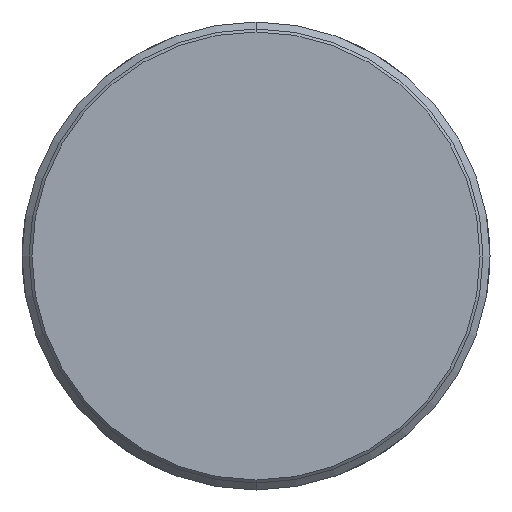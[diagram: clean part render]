
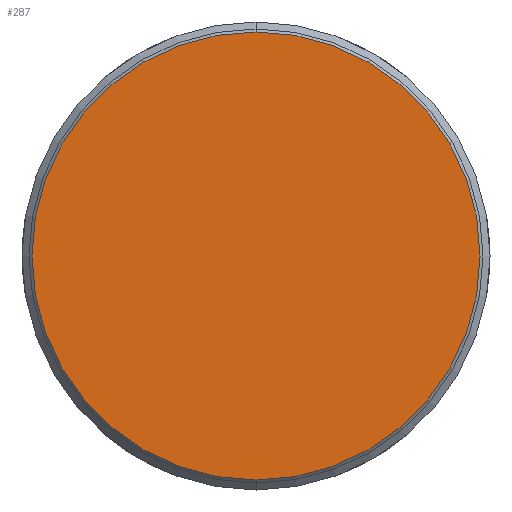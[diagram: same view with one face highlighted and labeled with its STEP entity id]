
A CAD part, front view. The second image highlights one B-rep face of the part: STEP entity #287.
In plain terms, the highlighted planar face has unit normal (0, -1, 0).
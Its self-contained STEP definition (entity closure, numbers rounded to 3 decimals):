
#262=CARTESIAN_POINT('',(0.0,-69.0,-38.3));
#263=VERTEX_POINT('',#262);
#264=CARTESIAN_POINT('',(0.0,-69.0,38.3));
#265=VERTEX_POINT('',#264);
#266=CARTESIAN_POINT('',(0.0,-69.0,0.0));
#267=DIRECTION('',(0.0,-1.0,0.0));
#268=DIRECTION('',(0.0,0.0,-1.0));
#269=AXIS2_PLACEMENT_3D('',#266,#267,#268);
#270=CIRCLE('',#269,38.3);
#271=EDGE_CURVE('no 2156',#263,#265,#270,.T.);
#272=ORIENTED_EDGE('',*,*,#271,.T.);
#273=CARTESIAN_POINT('',(0.0,-69.0,0.0));
#274=DIRECTION('',(0.0,-1.0,0.0));
#275=DIRECTION('',(0.0,0.0,-1.0));
#276=AXIS2_PLACEMENT_3D('',#273,#274,#275);
#277=CIRCLE('',#276,38.3);
#278=EDGE_CURVE('no 2160',#265,#263,#277,.T.);
#279=ORIENTED_EDGE('',*,*,#278,.T.);
#280=EDGE_LOOP('',(#272,#279));
#281=FACE_OUTER_BOUND('',#280,.T.);
#282=CARTESIAN_POINT('',(0.0,-69.0,0.0));
#283=DIRECTION('',(0.0,-1.0,0.0));
#284=DIRECTION('',(0.0,0.0,-1.0));
#285=AXIS2_PLACEMENT_3D('',#282,#283,#284);
#286=PLANE('',#285);
#287=ADVANCED_FACE('no 2147',(#281),#286,.T.);
